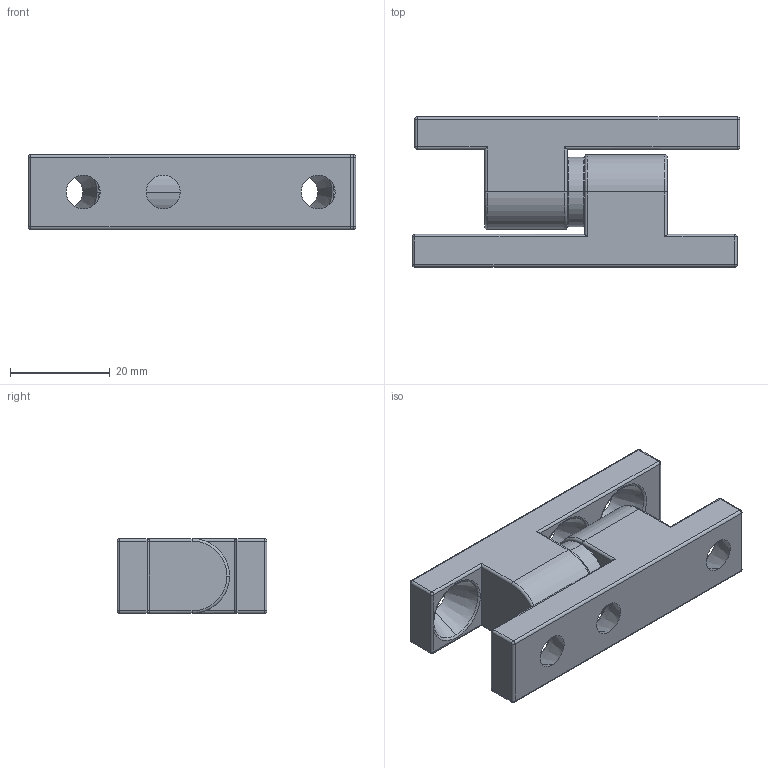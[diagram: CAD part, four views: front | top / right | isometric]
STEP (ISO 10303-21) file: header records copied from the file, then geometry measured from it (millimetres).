
FILE_DESCRIPTION (( 'STEP AP214' ), '1' );
FILE_NAME ('CL215耀倰.STEP', '2023-07-06T02:47:07', ( '' ), ( '' ), 'SwSTEP 2.0', 'SolidWorks 2019', '' );
FILE_SCHEMA (( 'AUTOMOTIVE_DESIGN' ));
Length unit declared in the file: millimetre
Products named in the file (5): 錨璃2; 錨璃3; 錨璃4; 錨璃1; CL215耀倰
Assembly tree (4 placements, depth 2):
  CL215耀倰
    錨璃1
    錨璃3
    錨璃4
    錨璃2
Bounding box: 65.5 x 30 x 15 mm (x, y, z)
Volume: 17143.6 mm3; surface area: 10311.2 mm2
Topology: 4 solids, 4 shells, 842 faces, 2309 edges, 1498 vertices
Faces by surface type: plane 484, bspline 244, cylinder 50, torus 32, cone 16, sphere 16
Entity records: 37733 total; most frequent: CARTESIAN_POINT 16312, ORIENTED_EDGE 4586, DIRECTION 3179, EDGE_CURVE 2293, VECTOR 1617, LINE 1617, VERTEX_POINT 1498, EDGE_LOOP 895
